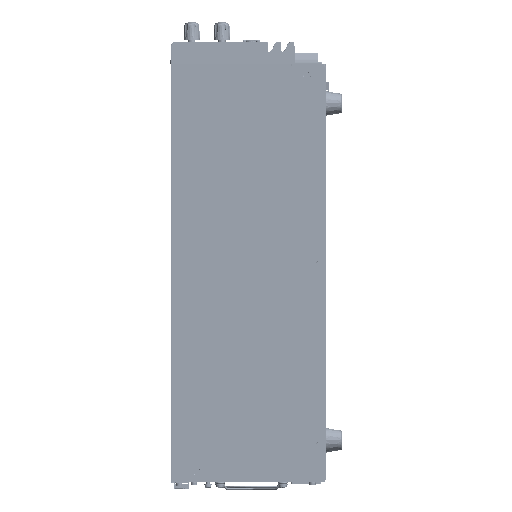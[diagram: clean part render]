
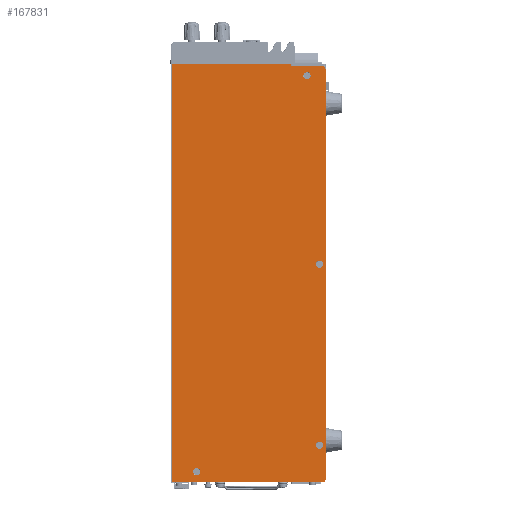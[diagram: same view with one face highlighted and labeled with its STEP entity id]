
A CAD part, left-side view. The second image highlights one B-rep face of the part: STEP entity #167831.
In plain terms, the highlighted planar face has unit normal (-1, 0, 0).
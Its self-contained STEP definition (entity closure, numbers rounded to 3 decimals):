
#166504=CARTESIAN_POINT('',(-35.2,2.5,-3.3));
#166505=DIRECTION('',(1.,0.,0.));
#166506=DIRECTION('',(0.,0.,1.));
#166507=AXIS2_PLACEMENT_3D('',#166504,#166505,#166506);
#166509=CARTESIAN_POINT('',(-35.2,2.5,-330.5));
#166510=DIRECTION('',(1.,0.,0.));
#166511=DIRECTION('',(0.,-1.,0.));
#166512=AXIS2_PLACEMENT_3D('',#166509,#166510,#166511);
#166514=DIRECTION('',(0.,1.,0.));
#166515=VECTOR('',#166514,120.5);
#166516=CARTESIAN_POINT('',(-35.2,2.5,-332.5));
#166517=LINE('',#166516,#166515);
#166518=DIRECTION('',(0.,-1.,0.));
#166519=VECTOR('',#166518,25.1);
#166520=CARTESIAN_POINT('',(-35.2,27.6,-1.3));
#166521=LINE('',#166520,#166519);
#166522=CARTESIAN_POINT('',(-35.2,103.,-324.));
#166523=DIRECTION('',(-1.,0.,0.));
#166524=DIRECTION('',(0.,1.,0.));
#166525=AXIS2_PLACEMENT_3D('',#166522,#166523,#166524);
#166527=CARTESIAN_POINT('',(-35.2,103.,-324.));
#166528=DIRECTION('',(-1.,0.,0.));
#166529=DIRECTION('',(0.,-1.,0.));
#166530=AXIS2_PLACEMENT_3D('',#166527,#166528,#166529);
#166532=CARTESIAN_POINT('',(-35.2,5.2,-303.));
#166533=DIRECTION('',(-1.,0.,0.));
#166534=DIRECTION('',(0.,1.,0.));
#166535=AXIS2_PLACEMENT_3D('',#166532,#166533,#166534);
#166537=CARTESIAN_POINT('',(-35.2,5.2,-303.));
#166538=DIRECTION('',(-1.,0.,0.));
#166539=DIRECTION('',(0.,-1.,0.));
#166540=AXIS2_PLACEMENT_3D('',#166537,#166538,#166539);
#166542=CARTESIAN_POINT('',(-35.2,15.2,-9.));
#166543=DIRECTION('',(-1.,0.,0.));
#166544=DIRECTION('',(0.,1.,0.));
#166545=AXIS2_PLACEMENT_3D('',#166542,#166543,#166544);
#166547=CARTESIAN_POINT('',(-35.2,15.2,-9.));
#166548=DIRECTION('',(-1.,0.,0.));
#166549=DIRECTION('',(0.,-1.,0.));
#166550=AXIS2_PLACEMENT_3D('',#166547,#166548,#166549);
#166552=CARTESIAN_POINT('',(-35.2,5.2,-159.));
#166553=DIRECTION('',(-1.,0.,0.));
#166554=DIRECTION('',(0.,1.,0.));
#166555=AXIS2_PLACEMENT_3D('',#166552,#166553,#166554);
#166557=CARTESIAN_POINT('',(-35.2,5.2,-159.));
#166558=DIRECTION('',(-1.,0.,0.));
#166559=DIRECTION('',(0.,-1.,0.));
#166560=AXIS2_PLACEMENT_3D('',#166557,#166558,#166559);
#166574=DIRECTION('',(0.,0.,1.));
#166575=VECTOR('',#166574,1.3);
#166576=CARTESIAN_POINT('',(-35.2,27.6,-1.3));
#166577=LINE('',#166576,#166575);
#166586=DIRECTION('',(0.,1.,0.));
#166587=VECTOR('',#166586,95.4);
#166588=CARTESIAN_POINT('',(-35.2,27.6,0.));
#166589=LINE('',#166588,#166587);
#166599=DIRECTION('',(0.,0.,-1.));
#166600=VECTOR('',#166599,332.5);
#166601=CARTESIAN_POINT('',(-35.2,123.,0.));
#166602=LINE('',#166601,#166600);
#167456=DIRECTION('',(0.,0.,1.));
#167457=VECTOR('',#167456,327.2);
#167458=CARTESIAN_POINT('',(-35.2,0.5,-330.5));
#167459=LINE('',#167458,#167457);
#167500=CARTESIAN_POINT('',(-35.2,2.5,-1.3));
#167501=CARTESIAN_POINT('',(-35.2,0.5,-3.3));
#167502=VERTEX_POINT('',#167500);
#167503=VERTEX_POINT('',#167501);
#167504=CARTESIAN_POINT('',(-35.2,0.5,-330.5));
#167505=VERTEX_POINT('',#167504);
#167506=CARTESIAN_POINT('',(-35.2,2.5,-332.5));
#167507=VERTEX_POINT('',#167506);
#167508=CARTESIAN_POINT('',(-35.2,123.,-332.5));
#167509=VERTEX_POINT('',#167508);
#167510=CARTESIAN_POINT('',(-35.2,123.,0.));
#167511=VERTEX_POINT('',#167510);
#167512=CARTESIAN_POINT('',(-35.2,27.6,0.));
#167513=VERTEX_POINT('',#167512);
#167514=CARTESIAN_POINT('',(-35.2,27.6,-1.3));
#167515=VERTEX_POINT('',#167514);
#167516=CARTESIAN_POINT('',(-35.2,105.893,-324.));
#167517=CARTESIAN_POINT('',(-35.2,100.107,-324.));
#167518=VERTEX_POINT('',#167516);
#167519=VERTEX_POINT('',#167517);
#167520=CARTESIAN_POINT('',(-35.2,8.093,-303.));
#167521=CARTESIAN_POINT('',(-35.2,2.307,-303.));
#167522=VERTEX_POINT('',#167520);
#167523=VERTEX_POINT('',#167521);
#167524=CARTESIAN_POINT('',(-35.2,18.093,-9.));
#167525=CARTESIAN_POINT('',(-35.2,12.307,-9.));
#167526=VERTEX_POINT('',#167524);
#167527=VERTEX_POINT('',#167525);
#167528=CARTESIAN_POINT('',(-35.2,8.093,-159.));
#167529=CARTESIAN_POINT('',(-35.2,2.307,-159.));
#167530=VERTEX_POINT('',#167528);
#167531=VERTEX_POINT('',#167529);
#167784=CARTESIAN_POINT('',(-35.2,123.,0.));
#167785=DIRECTION('',(-1.,0.,0.));
#167786=DIRECTION('',(0.,-1.,0.));
#167787=AXIS2_PLACEMENT_3D('',#167784,#167785,#167786);
#167788=PLANE('',#167787);
#167790=ORIENTED_EDGE('',*,*,#167789,.T.);
#167792=ORIENTED_EDGE('',*,*,#167791,.F.);
#167794=ORIENTED_EDGE('',*,*,#167793,.T.);
#167796=ORIENTED_EDGE('',*,*,#167795,.T.);
#167798=ORIENTED_EDGE('',*,*,#167797,.F.);
#167800=ORIENTED_EDGE('',*,*,#167799,.F.);
#167802=ORIENTED_EDGE('',*,*,#167801,.F.);
#167804=ORIENTED_EDGE('',*,*,#167803,.T.);
#167805=EDGE_LOOP('',(#167790,#167792,#167794,#167796,#167798,#167800,#167802,
#167804));
#167806=FACE_OUTER_BOUND('',#167805,.F.);
#167808=ORIENTED_EDGE('',*,*,#167807,.T.);
#167810=ORIENTED_EDGE('',*,*,#167809,.T.);
#167811=EDGE_LOOP('',(#167808,#167810));
#167812=FACE_BOUND('',#167811,.F.);
#167814=ORIENTED_EDGE('',*,*,#167813,.T.);
#167816=ORIENTED_EDGE('',*,*,#167815,.T.);
#167817=EDGE_LOOP('',(#167814,#167816));
#167818=FACE_BOUND('',#167817,.F.);
#167820=ORIENTED_EDGE('',*,*,#167819,.T.);
#167822=ORIENTED_EDGE('',*,*,#167821,.T.);
#167823=EDGE_LOOP('',(#167820,#167822));
#167824=FACE_BOUND('',#167823,.F.);
#167826=ORIENTED_EDGE('',*,*,#167825,.T.);
#167828=ORIENTED_EDGE('',*,*,#167827,.T.);
#167829=EDGE_LOOP('',(#167826,#167828));
#167830=FACE_BOUND('',#167829,.F.);
#167831=ADVANCED_FACE('',(#167806,#167812,#167818,#167824,#167830),#167788,.T.);
#166508=CIRCLE('',#166507,2.);
#166513=CIRCLE('',#166512,2.);
#166526=CIRCLE('',#166525,2.893);
#166531=CIRCLE('',#166530,2.893);
#166536=CIRCLE('',#166535,2.893);
#166541=CIRCLE('',#166540,2.893);
#166546=CIRCLE('',#166545,2.893);
#166551=CIRCLE('',#166550,2.893);
#166556=CIRCLE('',#166555,2.893);
#166561=CIRCLE('',#166560,2.893);
#167789=EDGE_CURVE('',#167502,#167503,#166508,.T.);
#167791=EDGE_CURVE('',#167505,#167503,#167459,.T.);
#167793=EDGE_CURVE('',#167505,#167507,#166513,.T.);
#167795=EDGE_CURVE('',#167507,#167509,#166517,.T.);
#167797=EDGE_CURVE('',#167511,#167509,#166602,.T.);
#167799=EDGE_CURVE('',#167513,#167511,#166589,.T.);
#167801=EDGE_CURVE('',#167515,#167513,#166577,.T.);
#167803=EDGE_CURVE('',#167515,#167502,#166521,.T.);
#167807=EDGE_CURVE('',#167518,#167519,#166526,.T.);
#167809=EDGE_CURVE('',#167519,#167518,#166531,.T.);
#167813=EDGE_CURVE('',#167522,#167523,#166536,.T.);
#167815=EDGE_CURVE('',#167523,#167522,#166541,.T.);
#167819=EDGE_CURVE('',#167526,#167527,#166546,.T.);
#167821=EDGE_CURVE('',#167527,#167526,#166551,.T.);
#167825=EDGE_CURVE('',#167530,#167531,#166556,.T.);
#167827=EDGE_CURVE('',#167531,#167530,#166561,.T.);
